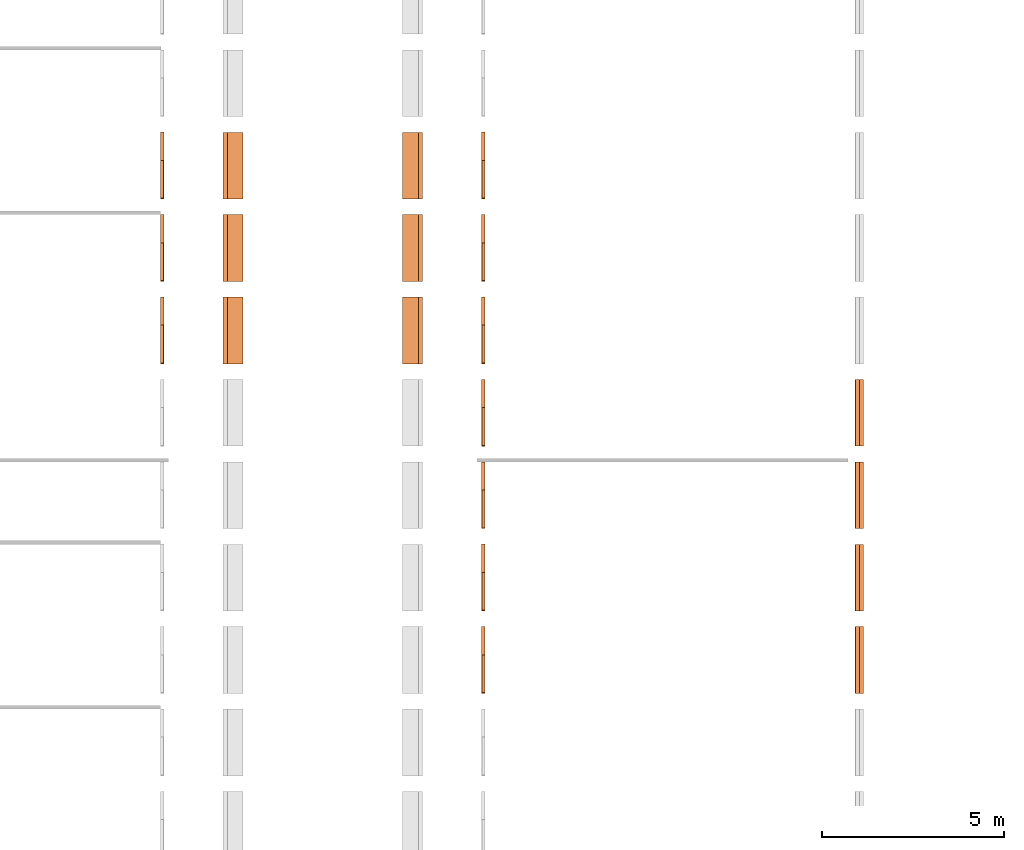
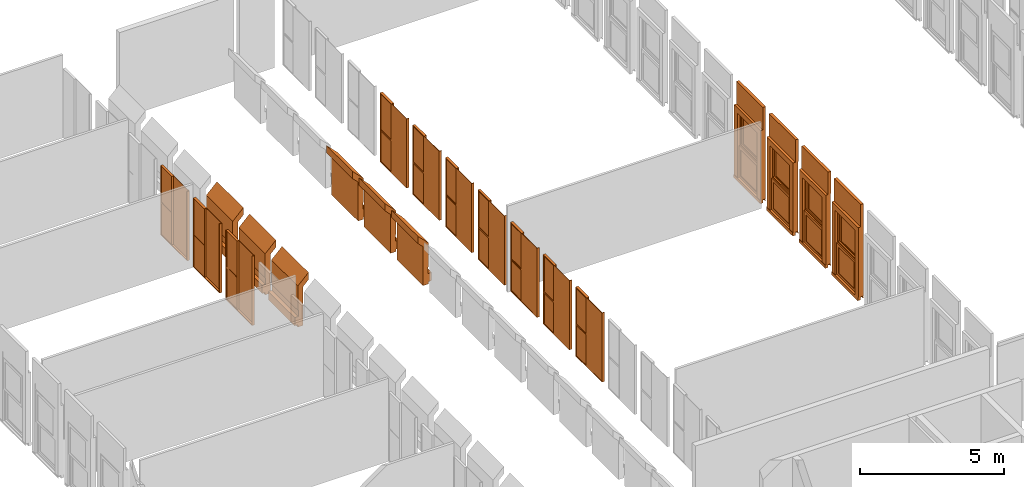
# One storey, part 10 of 13: 20 proxies.
"""IFC2X3 building model written with IfcOpenShell, lengths in millimetres."""

from ifc_helpers import new_model, entity, si_unit, converted_unit, derived_unit, direction, frame, frame_2d, origin, origin_2d_with_axis, place, context, subcontext, project, spatial, polyline, rectangle, outline, extrude, source, transform, mapped, material, material_list, type_object, type_shapes, element, save


model = new_model("IFC2X3")

# Units and contexts
model_context = context("Model", 3, precision=0.01, world=origin(), true_north=direction((6.12303176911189e-17, 1.0)))
body_context = subcontext(model_context, "Body", "Model", "MODEL_VIEW")
ifc_project = project(units=[si_unit("LENGTHUNIT", "METRE", prefix="MILLI"), si_unit("AREAUNIT", "SQUARE_METRE"), si_unit("VOLUMEUNIT", "CUBIC_METRE"), converted_unit("PLANEANGLEUNIT", "DEGREE", entity("IfcRatioMeasure", 0.0174532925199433), si_unit("PLANEANGLEUNIT", "RADIAN"), dimensions=[0, 0, 0, 0, 0, 0, 0]), si_unit("MASSUNIT", "GRAM", prefix="KILO"), derived_unit("MASSDENSITYUNIT", [(si_unit("MASSUNIT", "GRAM", prefix="KILO"), 1), (si_unit("LENGTHUNIT", "METRE"), -3)]), derived_unit("MOMENTOFINERTIAUNIT", [(si_unit("LENGTHUNIT", "METRE"), 4)]), si_unit("TIMEUNIT", "SECOND"), si_unit("FREQUENCYUNIT", "HERTZ"), si_unit("THERMODYNAMICTEMPERATUREUNIT", "DEGREE_CELSIUS"), derived_unit("THERMALTRANSMITTANCEUNIT", [(si_unit("MASSUNIT", "GRAM", prefix="KILO"), 1), (si_unit("THERMODYNAMICTEMPERATUREUNIT", "KELVIN"), -1), (si_unit("TIMEUNIT", "SECOND"), -3)]), derived_unit("VOLUMETRICFLOWRATEUNIT", [(si_unit("LENGTHUNIT", "METRE"), 3), (si_unit("TIMEUNIT", "SECOND"), -1)]), si_unit("ELECTRICCURRENTUNIT", "AMPERE"), si_unit("ELECTRICVOLTAGEUNIT", "VOLT"), si_unit("POWERUNIT", "WATT"), si_unit("FORCEUNIT", "NEWTON", prefix="KILO"), si_unit("ILLUMINANCEUNIT", "LUX"), si_unit("LUMINOUSFLUXUNIT", "LUMEN"), si_unit("LUMINOUSINTENSITYUNIT", "CANDELA"), derived_unit("USERDEFINED", [(si_unit("MASSUNIT", "GRAM", prefix="KILO"), -1), (si_unit("LENGTHUNIT", "METRE"), -2), (si_unit("TIMEUNIT", "SECOND"), 3), (si_unit("LUMINOUSFLUXUNIT", "LUMEN"), 1)]), derived_unit("LINEARVELOCITYUNIT", [(si_unit("LENGTHUNIT", "METRE"), 1), (si_unit("TIMEUNIT", "SECOND"), -1)]), si_unit("PRESSUREUNIT", "PASCAL"), derived_unit("USERDEFINED", [(si_unit("LENGTHUNIT", "METRE"), -2), (si_unit("MASSUNIT", "GRAM", prefix="KILO"), 1), (si_unit("TIMEUNIT", "SECOND"), -2)]), derived_unit("LINEARFORCEUNIT", [(si_unit("MASSUNIT", "GRAM", prefix="KILO"), 1), (si_unit("LENGTHUNIT", "METRE"), 1), (si_unit("TIMEUNIT", "SECOND"), -2), (si_unit("LENGTHUNIT", "METRE"), -1)]), derived_unit("PLANARFORCEUNIT", [(si_unit("MASSUNIT", "GRAM", prefix="KILO"), 1), (si_unit("LENGTHUNIT", "METRE"), 1), (si_unit("TIMEUNIT", "SECOND"), -2), (si_unit("LENGTHUNIT", "METRE"), -2)])], contexts=[model_context])

# Site, building, storey
site_placement = place(None, frame((10627.5135316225, 21939.0796949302, 0.0)))
site = spatial("IfcSite", under=ifc_project, at=site_placement, Name="Default", CompositionType="ELEMENT")
building_placement = place(site_placement, origin())
building = spatial("IfcBuilding", under=site, at=building_placement, CompositionType="ELEMENT")
storey_placement = place(building_placement, frame((0.0, 0.0, 7320.0)))
storey = spatial("IfcBuildingStorey", under=building, at=storey_placement, Name="R+2", CompositionType="ELEMENT", Elevation=7320.0)

# Proxies
ifc_material_1 = material(Name="PVC, Flexible")
ifc_material_2 = material(Name="Glass")
ifc_material_list_1 = material_list([ifc_material_1, ifc_material_2])
building_element_proxy_type_1 = type_object("IfcBuildingElementProxyType", Name="FENETRE.dwg:Fenetre ext 296+95", PredefinedType="NOTDEFINED", material=ifc_material_1)
shared_shape_1 = source(origin(), body_context, "Body", "SweptSolid", [
    extrude(rectangle(XDim=112.500043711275, YDim=1829.99999999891, at=origin_2d_with_axis()), frame((-10.4189092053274, -56.2500218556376, 2960.0), z_axis=(0.0, 0.0, 1.0), x_axis=(0.0, 1.0, 0.0)), (0.0, 0.0, 1.0), 949.999999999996),
    extrude(outline(polyline([(27.5499763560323, -64.4170494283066), (47.5499763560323, -64.4170494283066), (47.5499763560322, -59.4170494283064), (28.7622905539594, -59.4170494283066), (7.54997635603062, 46.6946996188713), (-42.4500236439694, 46.6946996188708), (-42.4500236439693, 32.9446996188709), (-39.9500236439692, 32.9446996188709), (-39.9500236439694, 44.1946996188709), (5.83789859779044, 44.1946996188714), (27.5499763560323, -64.4170494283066)])), frame((-925.418909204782, -66.917049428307, -47.5499763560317), z_axis=(1.0, 0.0, 0.0), x_axis=(0.0, 0.0, 1.0)), (0.0, 0.0, 1.0), 1829.99999999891),
    extrude(outline(polyline([(-54.506636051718, -66.1431859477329), (58.0333803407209, -66.1431859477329), (54.4666704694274, 67.6422744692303), (-57.9934147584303, 64.6440974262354), (-54.506636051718, -66.1431859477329)])), frame((-925.418909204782, 56.2500218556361, -63.833312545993), z_axis=(1.0, 0.0, 0.0), x_axis=(0.0, -0.999644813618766, 0.0266504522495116)), (0.0, 0.0, 1.0), 1829.99999999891),
    extrude(outline(polyline([(-97.0007159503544, -55.5555555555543), (5.85738417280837, -55.5555555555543), (95.357341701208, -55.5555555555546), (95.357341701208, -45.5555555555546), (105.357341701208, -45.5555555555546), (105.357341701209, 174.444444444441), (-106.642659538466, 174.444444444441), (-106.642659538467, -45.5555555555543), (-97.0007159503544, -45.5555555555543), (-97.0007159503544, -55.5555555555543)])), frame((849.025535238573, -5.85738417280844, 0.0), z_axis=(0.0, 0.0, 1.0), x_axis=(0.0, 1.0, 0.0)), (0.0, 0.0, 1.0), 2960.0),
    extrude(rectangle(XDim=1369.99999999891, YDim=199.499957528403, at=origin_2d_with_axis()), frame((-10.4189092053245, -0.250021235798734, 2730.0), z_axis=(0.0, 0.0, 1.0), x_axis=(-1.0, 0.0, 0.0)), (0.0, 0.0, 1.0), 230.000000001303),
    extrude(outline(polyline([(-55.5555555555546, 97.0007159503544), (-55.5555555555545, -5.85738417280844), (-55.5555555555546, -95.357341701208), (-45.5555555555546, -95.3573417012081), (-45.5555555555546, -105.357341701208), (174.444444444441, -105.357341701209), (174.444444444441, 106.642659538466), (-45.5555555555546, 106.642659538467), (-45.5555555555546, 97.0007159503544), (-55.5555555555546, 97.0007159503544)])), frame((-869.863353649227, -5.85738417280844, 0.0), z_axis=(0.0, 0.0, -1.0), x_axis=(1.0, 0.0, 0.0)), (0.0, 0.0, -1.0), 2960.0),
    extrude(rectangle(XDim=1079.99999999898, YDim=1.0, at=origin_2d_with_axis()), frame((-10.4189092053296, 19.5, 130.0), z_axis=(0.0, 0.0, 1.0), x_axis=(-1.0, 0.0, 0.0)), (0.0, 0.0, 1.0), 1120.00000000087),
    extrude(rectangle(XDim=1079.99999999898, YDim=1.0, at=origin_2d_with_axis()), frame((-10.4189092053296, 30.5, 130.0), z_axis=(0.0, 0.0, 1.0), x_axis=(-1.0, 0.0, 0.0)), (0.0, 0.0, 1.0), 1120.00000000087),
    extrude(rectangle(XDim=1079.99999999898, YDim=1.0, at=frame_2d((0.0, 4.21884749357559e-15), x_axis=(1.0, 0.0))), frame((-10.4189092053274, -69.5, 1465.0), z_axis=(0.0, 0.0, 1.0), x_axis=(-1.0, 0.0, 0.0)), (0.0, 0.0, 1.0), 1120.0),
    extrude(rectangle(XDim=1079.99999999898, YDim=0.999999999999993, at=frame_2d((0.0, -8.46545056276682e-15), x_axis=(1.0, 0.0))), frame((-10.4189092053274, -80.5, 1465.0), z_axis=(0.0, 0.0, 1.0), x_axis=(-1.0, 0.0, 0.0)), (0.0, 0.0, 1.0), 1120.00000000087),
    extrude(outline(polyline([(-685.0, -1365.0), (0.0, -1365.0), (685.0, -1365.0), (685.0, 1365.0), (0.0, 1365.0), (-685.0, 1365.0), (-685.0, -1365.0)]), holes=[polyline([(-640.0, -1320.0), (-640.0, -45.0), (0.0, -45.0), (640.0, -45.0), (640.0, -1320.0), (0.0, -1320.0), (-640.0, -1320.0)]), polyline([(-640.0, 40.0), (-640.0, 1315.0), (0.0, 1315.0), (640.0, 1315.0), (640.0, 40.0), (0.0, 40.0), (-640.0, 40.0)])]), frame((-10.4189092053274, -50.0, 1365.0), z_axis=(0.0, 1.0, 0.0), x_axis=(1.0, 0.0, 0.0)), (0.0, 0.0, 1.0), 50.0),
    extrude(outline(polyline([(-655.0, -667.500000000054), (655.0, -667.500000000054), (655.0, 667.500000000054), (-655.0, 667.500000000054), (-655.0, -667.500000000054)]), holes=[polyline([(-540.0, 552.500000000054), (540.0, 552.500000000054), (540.0, -567.500000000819), (-540.0, -567.500000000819), (-540.0, 552.500000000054)])]), frame((-10.4189092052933, 0.0, 697.500000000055), z_axis=(0.0, 1.0, 0.0), x_axis=(-1.0, 0.0, 0.0)), (0.0, 0.0, 1.0), 50.0),
    extrude(outline(polyline([(-655.0, -667.500000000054), (655.0, -667.500000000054), (655.0, 667.500000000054), (-655.0, 667.500000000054), (-655.0, -667.500000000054)]), holes=[polyline([(-540.0, 552.500000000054), (540.0, 552.500000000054), (540.0, -567.500000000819), (-540.0, -567.500000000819), (-540.0, 552.500000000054)])]), frame((-10.4189092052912, -100.0, 2032.50000000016), z_axis=(0.0, 1.0, 0.0), x_axis=(-1.0, 0.0, 0.0)), (0.0, 0.0, 1.0), 50.0),
])
type_shapes(building_element_proxy_type_1, [shared_shape_1])
proxy_1_placement = place(storey_placement, frame((41291.8747193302, 1801.33921427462, 0.0), z_axis=(0.0, 0.0, 1.0), x_axis=(0.0, 1.0, 0.0)))
element("IfcBuildingElementProxy", 1, at=proxy_1_placement, inside=storey, type_object=building_element_proxy_type_1, material=ifc_material_list_1, Name="FENETRE.dwg:Fenetre ext 296+95", ObjectType="FENETRE.dwg:Fenetre ext 296+95", context=body_context, shape_type="MappedRepresentation", body=[
    mapped(shared_shape_1, transform((0.0, 0.0, 0.0), scale=1.0)),
])
ifc_material_list_2 = material_list([ifc_material_1, ifc_material_2])
proxy_2_placement = place(storey_placement, frame((41291.8747193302, -458.660785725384, 0.0), z_axis=(0.0, 0.0, 1.0), x_axis=(0.0, 1.0, 0.0)))
element("IfcBuildingElementProxy", 2, at=proxy_2_placement, inside=storey, type_object=building_element_proxy_type_1, material=ifc_material_list_2, Name="FENETRE.dwg:Fenetre ext 296+95", ObjectType="FENETRE.dwg:Fenetre ext 296+95", context=body_context, shape_type="MappedRepresentation", body=[
    mapped(shared_shape_1, transform((0.0, 0.0, 0.0), scale=1.0)),
])
ifc_material_list_3 = material_list([ifc_material_1, ifc_material_2])
proxy_3_placement = place(storey_placement, frame((41291.8747193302, -2718.66078572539, 0.0), z_axis=(0.0, 0.0, 1.0), x_axis=(0.0, 1.0, 0.0)))
element("IfcBuildingElementProxy", 3, at=proxy_3_placement, inside=storey, type_object=building_element_proxy_type_1, material=ifc_material_list_3, Name="FENETRE.dwg:Fenetre ext 296+95", ObjectType="FENETRE.dwg:Fenetre ext 296+95", context=body_context, shape_type="MappedRepresentation", body=[
    mapped(shared_shape_1, transform((0.0, 0.0, 0.0), scale=1.0)),
])
ifc_material_list_4 = material_list([ifc_material_1, ifc_material_2])
proxy_4_placement = place(storey_placement, frame((41291.8747193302, -4978.66078572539, 0.0), z_axis=(0.0, 0.0, 1.0), x_axis=(0.0, 1.0, 0.0)))
element("IfcBuildingElementProxy", 4, at=proxy_4_placement, inside=storey, type_object=building_element_proxy_type_1, material=ifc_material_list_4, Name="FENETRE.dwg:Fenetre ext 296+95", ObjectType="FENETRE.dwg:Fenetre ext 296+95", context=body_context, shape_type="MappedRepresentation", body=[
    mapped(shared_shape_1, transform((0.0, 0.0, 0.0), scale=1.0)),
])
ifc_material_3 = material(Name="Plywood, Sheathing")
ifc_material_list_5 = material_list([ifc_material_3, ifc_material_2])
building_element_proxy_type_2 = type_object("IfcBuildingElementProxyType", Name="Porte noire:Porte noire", PredefinedType="NOTDEFINED", material=ifc_material_3)
shared_shape_2 = source(origin(), body_context, "Body", "SweptSolid", [
    extrude(rectangle(XDim=100.0, YDim=23.0000000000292, at=origin_2d_with_axis()), frame((-950.918997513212, -50.0, 8.73189890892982), z_axis=(0.0, 0.0, 1.0), x_axis=(0.0, 1.0, 0.0)), (0.0, 0.0, 1.0), 2933.34951039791),
    extrude(rectangle(XDim=19.0, YDim=1038.0, at=frame_2d((7.99360577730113e-15, 0.0), x_axis=(1.0, 0.0))), frame((-420.418997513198, -87.5, 43.7318989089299), z_axis=(0.0, 0.0, 1.0), x_axis=(0.0, 1.0, 0.0)), (0.0, 0.0, 1.0), 2898.5),
    extrude(rectangle(XDim=100.0, YDim=1775.0, at=origin_2d_with_axis()), frame((-51.9189975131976, -50.0, 8.73189890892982), z_axis=(0.0, 0.0, 1.0), x_axis=(0.0, 1.0, 0.0)), (0.0, 0.0, 1.0), 35.0000000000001),
    extrude(rectangle(XDim=100.0, YDim=35.0000000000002, at=origin_2d_with_axis()), frame((853.081002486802, -50.0, 8.73189890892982), z_axis=(0.0, 0.0, 1.0), x_axis=(0.0, 1.0, 0.0)), (0.0, 0.0, 1.0), 2898.5),
    extrude(rectangle(XDim=100.0, YDim=740.0, at=origin_2d_with_axis()), frame((500.581002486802, -50.0, 2907.23189890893), z_axis=(0.0, 0.0, 1.0), x_axis=(0.0, 1.0, 0.0)), (0.0, 0.0, 1.0), 35.0000000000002),
    extrude(rectangle(XDim=100.0, YDim=31.9999999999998, at=origin_2d_with_axis()), frame((114.581002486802, -50.0, 43.7318989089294), z_axis=(0.0, 0.0, 1.0), x_axis=(0.0, 1.0, 0.0)), (0.0, 0.0, 1.0), 2898.5),
    extrude(rectangle(XDim=100.0, YDim=705.0, at=origin_2d_with_axis()), frame((483.081002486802, -50.0, 1343.73189890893), z_axis=(0.0, 0.0, 1.0), x_axis=(0.0, 1.0, 0.0)), (0.0, 0.0, 1.0), 55.0),
    extrude(outline(polyline([(-352.5, -650.0), (352.5, -650.0), (352.5, 650.0), (-352.5, 650.0), (-352.5, -650.0)]), holes=[polyline([(342.5, 640.0), (342.5, -640.0), (-342.5, -640.0), (-342.5, 640.0), (342.5, 640.0)])]), frame((483.081002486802, -80.0, 693.73189890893), z_axis=(0.0, 1.0, 0.0), x_axis=(1.0, 0.0, 0.0)), (0.0, 0.0, 1.0), 70.0),
    extrude(outline(polyline([(-754.25, -352.5), (754.25, -352.5), (754.25, 352.5), (-754.25, 352.5), (-754.25, -352.5)]), holes=[polyline([(744.25, 342.5), (744.25, -342.5), (-744.25, -342.5), (-744.25, 342.5), (744.25, 342.5)])]), frame((483.081002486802, -80.0, 2152.98189890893), z_axis=(0.0, 1.0, 0.0), x_axis=(0.0, 0.0, 1.0)), (0.0, 0.0, 1.0), 70.0),
    extrude(outline(polyline([(-640.0, -342.5), (640.0, -342.5), (640.0, 342.5), (-640.0, 342.5), (-640.0, -342.5)]), holes=[polyline([(630.0, 332.5), (630.0, -332.5), (-630.0, -332.5), (-630.0, 332.5), (630.0, 332.5)])]), frame((483.081002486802, -81.0, 693.731898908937), z_axis=(0.0, 1.0, 0.0), x_axis=(0.0, 0.0, 1.0)), (0.0, 0.0, 1.0), 3.99999999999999),
    extrude(outline(polyline([(-744.25, -342.5), (744.25, -342.5), (744.25, 342.5), (-744.25, 342.5), (-744.25, -342.5)]), holes=[polyline([(734.25, 332.5), (734.25, -332.5), (-734.25, -332.5), (-734.25, 332.5), (734.25, 332.5)])]), frame((483.081002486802, -81.0, 2152.98189890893), z_axis=(0.0, 1.0, 0.0), x_axis=(0.0, 0.0, 1.0)), (0.0, 0.0, 1.0), 3.99999999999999),
    extrude(outline(polyline([(-640.0, -342.5), (640.0, -342.5), (640.0, 342.5), (-640.0, 342.5), (-640.0, -342.5)]), holes=[polyline([(630.0, 332.5), (630.0, -332.5), (-630.0, -332.5), (-630.0, 332.5), (630.0, 332.5)])]), frame((483.081002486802, -15.0, 693.782575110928), z_axis=(0.0, 1.0, 0.0), x_axis=(0.0, 0.0, 1.0)), (0.0, 0.0, 1.0), 5.0),
    extrude(outline(polyline([(-744.25, -342.5), (744.25, -342.5), (744.25, 342.5), (-744.25, 342.5), (-744.25, -342.5)]), holes=[polyline([(734.25, 332.5), (734.25, -332.5), (-734.25, -332.5), (-734.25, 332.5), (734.25, 332.5)])]), frame((483.081002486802, -15.0, 2153.03257511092), z_axis=(0.0, 1.0, 0.0), x_axis=(0.0, 0.0, 1.0)), (0.0, 0.0, 1.0), 5.0),
    extrude(rectangle(XDim=2.0, YDim=665.0, at=frame_2d((8.43769498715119e-15, 0.0), x_axis=(1.0, 0.0))), frame((483.081002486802, -79.0, 1418.73189890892), z_axis=(0.0, 0.0, 1.0), x_axis=(0.0, 1.0, 0.0)), (0.0, 0.0, 1.0), 1468.50000000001),
    extrude(rectangle(XDim=2.0, YDim=665.0, at=frame_2d((8.43769498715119e-15, 0.0), x_axis=(1.0, 0.0))), frame((483.081002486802, -79.0, 63.7318989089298), z_axis=(0.0, 0.0, 1.0), x_axis=(0.0, 1.0, 0.0)), (0.0, 0.0, 1.0), 1260.0),
    extrude(rectangle(XDim=2.0, YDim=665.0, at=frame_2d((1.0547118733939e-15, 0.0), x_axis=(1.0, 0.0))), frame((483.081002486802, -13.0, 1418.78257511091), z_axis=(0.0, 0.0, 1.0), x_axis=(0.0, 1.0, 0.0)), (0.0, 0.0, 1.0), 1468.50000000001),
    extrude(rectangle(XDim=2.0, YDim=665.0, at=frame_2d((1.0547118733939e-15, 0.0), x_axis=(1.0, 0.0))), frame((483.081002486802, -13.0, 63.7825751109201), z_axis=(0.0, 0.0, 1.0), x_axis=(0.0, 1.0, 0.0)), (0.0, 0.0, 1.0), 1260.0),
])
type_shapes(building_element_proxy_type_2, [shared_shape_2])
proxy_5_placement = place(storey_placement, frame((22127.8464640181, 4097.33930258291, 0.0), z_axis=(0.0, 0.0, 1.0), x_axis=(0.0, 1.0, 0.0)))
element("IfcBuildingElementProxy", 5, at=proxy_5_placement, inside=storey, type_object=building_element_proxy_type_2, material=ifc_material_list_5, Name="Porte noire:Porte noire", ObjectType="Porte noire:Porte noire", context=body_context, shape_type="MappedRepresentation", body=[
    mapped(shared_shape_2, transform((0.0, 0.0, 0.0), scale=1.0)),
])
ifc_material_list_6 = material_list([ifc_material_3, ifc_material_2])
proxy_6_placement = place(storey_placement, frame((22127.8464640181, 6357.33930258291, 0.0), z_axis=(0.0, 0.0, 1.0), x_axis=(0.0, 1.0, 0.0)))
element("IfcBuildingElementProxy", 6, at=proxy_6_placement, inside=storey, type_object=building_element_proxy_type_2, material=ifc_material_list_6, Name="Porte noire:Porte noire", ObjectType="Porte noire:Porte noire", context=body_context, shape_type="MappedRepresentation", body=[
    mapped(shared_shape_2, transform((0.0, 0.0, 0.0), scale=1.0)),
])
ifc_material_list_7 = material_list([ifc_material_3, ifc_material_2])
proxy_7_placement = place(storey_placement, frame((22127.8464640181, 8617.33930258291, 0.0), z_axis=(0.0, 0.0, 1.0), x_axis=(0.0, 1.0, 0.0)))
element("IfcBuildingElementProxy", 7, at=proxy_7_placement, inside=storey, type_object=building_element_proxy_type_2, material=ifc_material_list_7, Name="Porte noire:Porte noire", ObjectType="Porte noire:Porte noire", context=body_context, shape_type="MappedRepresentation", body=[
    mapped(shared_shape_2, transform((0.0, 0.0, 0.0), scale=1.0)),
])
ifc_material_list_8 = material_list([ifc_material_3, ifc_material_2])
building_element_proxy_type_3 = type_object("IfcBuildingElementProxyType", Name="Porte noire:Porte noire", PredefinedType="NOTDEFINED", material=ifc_material_3)
shared_shape_3 = source(origin(), body_context, "Body", "SweptSolid", [
    extrude(rectangle(XDim=23.0000000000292, YDim=100.0, at=frame_2d((-1.35891298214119e-13, 0.0), x_axis=(1.0, 0.0))), frame((-950.918997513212, 50.0, 8.73189890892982), z_axis=(0.0, 0.0, 1.0), x_axis=(-1.0, 0.0, 0.0)), (0.0, 0.0, 1.0), 2933.34951039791),
    extrude(rectangle(XDim=1038.0, YDim=19.0, at=frame_2d((0.0, 7.99360577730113e-15), x_axis=(1.0, 0.0))), frame((-420.418997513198, 87.5, 43.7318989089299), z_axis=(0.0, 0.0, 1.0), x_axis=(-1.0, 0.0, 0.0)), (0.0, 0.0, 1.0), 2898.5),
    extrude(rectangle(XDim=1775.0, YDim=100.0, at=origin_2d_with_axis()), frame((-51.9189975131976, 50.0, 8.73189890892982), z_axis=(0.0, 0.0, 1.0), x_axis=(-1.0, 0.0, 0.0)), (0.0, 0.0, 1.0), 35.0000000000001),
    extrude(rectangle(XDim=35.0000000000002, YDim=100.0, at=origin_2d_with_axis()), frame((853.081002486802, 50.0, 8.73189890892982), z_axis=(0.0, 0.0, 1.0), x_axis=(-1.0, 0.0, 0.0)), (0.0, 0.0, 1.0), 2898.5),
    extrude(rectangle(XDim=740.0, YDim=100.0, at=origin_2d_with_axis()), frame((500.581002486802, 50.0, 2907.23189890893), z_axis=(0.0, 0.0, 1.0), x_axis=(-1.0, 0.0, 0.0)), (0.0, 0.0, 1.0), 35.0000000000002),
    extrude(rectangle(XDim=31.9999999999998, YDim=100.0, at=origin_2d_with_axis()), frame((114.581002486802, 50.0, 43.7318989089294), z_axis=(0.0, 0.0, 1.0), x_axis=(-1.0, 0.0, 0.0)), (0.0, 0.0, 1.0), 2898.5),
    extrude(rectangle(XDim=705.0, YDim=100.0, at=origin_2d_with_axis()), frame((483.081002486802, 50.0, 1343.73189890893), z_axis=(0.0, 0.0, 1.0), x_axis=(-1.0, 0.0, 0.0)), (0.0, 0.0, 1.0), 55.0),
    extrude(outline(polyline([(-352.5, -650.0), (352.5, -650.0), (352.5, 650.0), (-352.5, 650.0), (-352.5, -650.0)]), holes=[polyline([(342.5, 640.0), (342.5, -640.0), (-342.5, -640.0), (-342.5, 640.0), (342.5, 640.0)])]), frame((483.081002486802, 10.0, 693.73189890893), z_axis=(0.0, 1.0, 0.0), x_axis=(1.0, 0.0, 0.0)), (0.0, 0.0, 1.0), 70.0),
    extrude(outline(polyline([(-754.25, -352.5), (754.25, -352.5), (754.25, 352.5), (-754.25, 352.5), (-754.25, -352.5)]), holes=[polyline([(744.25, 342.5), (744.25, -342.5), (-744.25, -342.5), (-744.25, 342.5), (744.25, 342.5)])]), frame((483.081002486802, 10.0, 2152.98189890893), z_axis=(0.0, 1.0, 0.0), x_axis=(0.0, 0.0, 1.0)), (0.0, 0.0, 1.0), 70.0),
    extrude(outline(polyline([(-640.0, -342.5), (640.0, -342.5), (640.0, 342.5), (-640.0, 342.5), (-640.0, -342.5)]), holes=[polyline([(630.0, 332.5), (630.0, -332.5), (-630.0, -332.5), (-630.0, 332.5), (630.0, 332.5)])]), frame((483.081002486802, 77.0, 693.731898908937), z_axis=(0.0, 1.0, 0.0), x_axis=(0.0, 0.0, 1.0)), (0.0, 0.0, 1.0), 3.99999999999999),
    extrude(outline(polyline([(-744.25, -342.5), (744.25, -342.5), (744.25, 342.5), (-744.25, 342.5), (-744.25, -342.5)]), holes=[polyline([(734.25, 332.5), (734.25, -332.5), (-734.25, -332.5), (-734.25, 332.5), (734.25, 332.5)])]), frame((483.081002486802, 77.0, 2152.98189890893), z_axis=(0.0, 1.0, 0.0), x_axis=(0.0, 0.0, 1.0)), (0.0, 0.0, 1.0), 3.99999999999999),
    extrude(outline(polyline([(-640.0, -342.5), (640.0, -342.5), (640.0, 342.5), (-640.0, 342.5), (-640.0, -342.5)]), holes=[polyline([(630.0, 332.5), (630.0, -332.5), (-630.0, -332.5), (-630.0, 332.5), (630.0, 332.5)])]), frame((483.081002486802, 10.0, 693.782575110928), z_axis=(0.0, 1.0, 0.0), x_axis=(0.0, 0.0, 1.0)), (0.0, 0.0, 1.0), 5.0),
    extrude(outline(polyline([(-744.25, -342.5), (744.25, -342.5), (744.25, 342.5), (-744.25, 342.5), (-744.25, -342.5)]), holes=[polyline([(734.25, 332.5), (734.25, -332.5), (-734.25, -332.5), (-734.25, 332.5), (734.25, 332.5)])]), frame((483.081002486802, 10.0, 2153.03257511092), z_axis=(0.0, 1.0, 0.0), x_axis=(0.0, 0.0, 1.0)), (0.0, 0.0, 1.0), 5.0),
    extrude(rectangle(XDim=665.0, YDim=2.0, at=frame_2d((0.0, 8.43769498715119e-15), x_axis=(1.0, 0.0))), frame((483.081002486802, 79.0, 1418.73189890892), z_axis=(0.0, 0.0, 1.0), x_axis=(-1.0, 0.0, 0.0)), (0.0, 0.0, 1.0), 1468.50000000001),
    extrude(rectangle(XDim=665.0, YDim=2.0, at=frame_2d((0.0, 8.43769498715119e-15), x_axis=(1.0, 0.0))), frame((483.081002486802, 79.0, 63.7318989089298), z_axis=(0.0, 0.0, 1.0), x_axis=(-1.0, 0.0, 0.0)), (0.0, 0.0, 1.0), 1260.0),
    extrude(rectangle(XDim=665.0, YDim=2.0, at=frame_2d((0.0, 1.0547118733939e-15), x_axis=(1.0, 0.0))), frame((483.081002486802, 13.0, 1418.78257511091), z_axis=(0.0, 0.0, 1.0), x_axis=(-1.0, 0.0, 0.0)), (0.0, 0.0, 1.0), 1468.50000000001),
    extrude(rectangle(XDim=665.0, YDim=2.0, at=frame_2d((0.0, 1.0547118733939e-15), x_axis=(1.0, 0.0))), frame((483.081002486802, 13.0, 63.7825751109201), z_axis=(0.0, 0.0, 1.0), x_axis=(-1.0, 0.0, 0.0)), (0.0, 0.0, 1.0), 1260.0),
])
type_shapes(building_element_proxy_type_3, [shared_shape_3])
proxy_8_placement = place(storey_placement, frame((31027.1264727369, -4942.66069741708, 0.0), z_axis=(0.0, 0.0, 1.0), x_axis=(0.0, 1.0, 0.0)))
element("IfcBuildingElementProxy", 8, at=proxy_8_placement, inside=storey, type_object=building_element_proxy_type_3, material=ifc_material_list_8, Name="Porte noire:Porte noire", ObjectType="Porte noire:Porte noire", context=body_context, shape_type="MappedRepresentation", body=[
    mapped(shared_shape_3, transform((0.0, 0.0, 0.0), scale=1.0)),
])
ifc_material_list_9 = material_list([ifc_material_3, ifc_material_2])
proxy_9_placement = place(storey_placement, frame((31027.1264727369, -2682.66069741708, 0.0), z_axis=(0.0, 0.0, 1.0), x_axis=(0.0, 1.0, 0.0)))
element("IfcBuildingElementProxy", 9, at=proxy_9_placement, inside=storey, type_object=building_element_proxy_type_3, material=ifc_material_list_9, Name="Porte noire:Porte noire", ObjectType="Porte noire:Porte noire", context=body_context, shape_type="MappedRepresentation", body=[
    mapped(shared_shape_3, transform((0.0, 0.0, 0.0), scale=1.0)),
])
ifc_material_list_10 = material_list([ifc_material_3, ifc_material_2])
proxy_10_placement = place(storey_placement, frame((31027.1264727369, -422.660697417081, 0.0), z_axis=(0.0, 0.0, 1.0), x_axis=(0.0, 1.0, 0.0)))
element("IfcBuildingElementProxy", 10, at=proxy_10_placement, inside=storey, type_object=building_element_proxy_type_3, material=ifc_material_list_10, Name="Porte noire:Porte noire", ObjectType="Porte noire:Porte noire", context=body_context, shape_type="MappedRepresentation", body=[
    mapped(shared_shape_3, transform((0.0, 0.0, 0.0), scale=1.0)),
])
ifc_material_list_11 = material_list([ifc_material_3, ifc_material_2])
proxy_11_placement = place(storey_placement, frame((31027.1264727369, 1837.33930258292, 0.0), z_axis=(0.0, 0.0, 1.0), x_axis=(0.0, 1.0, 0.0)))
element("IfcBuildingElementProxy", 11, at=proxy_11_placement, inside=storey, type_object=building_element_proxy_type_3, material=ifc_material_list_11, Name="Porte noire:Porte noire", ObjectType="Porte noire:Porte noire", context=body_context, shape_type="MappedRepresentation", body=[
    mapped(shared_shape_3, transform((0.0, 0.0, 0.0), scale=1.0)),
])
ifc_material_list_12 = material_list([ifc_material_3, ifc_material_2])
proxy_12_placement = place(storey_placement, frame((31027.1264727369, 4097.33930258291, 0.0), z_axis=(0.0, 0.0, 1.0), x_axis=(0.0, 1.0, 0.0)))
element("IfcBuildingElementProxy", 12, at=proxy_12_placement, inside=storey, type_object=building_element_proxy_type_3, material=ifc_material_list_12, Name="Porte noire:Porte noire", ObjectType="Porte noire:Porte noire", context=body_context, shape_type="MappedRepresentation", body=[
    mapped(shared_shape_3, transform((0.0, 0.0, 0.0), scale=1.0)),
])
ifc_material_list_13 = material_list([ifc_material_3, ifc_material_2])
proxy_13_placement = place(storey_placement, frame((31027.1264727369, 6357.33930258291, 0.0), z_axis=(0.0, 0.0, 1.0), x_axis=(0.0, 1.0, 0.0)))
element("IfcBuildingElementProxy", 13, at=proxy_13_placement, inside=storey, type_object=building_element_proxy_type_3, material=ifc_material_list_13, Name="Porte noire:Porte noire", ObjectType="Porte noire:Porte noire", context=body_context, shape_type="MappedRepresentation", body=[
    mapped(shared_shape_3, transform((0.0, 0.0, 0.0), scale=1.0)),
])
ifc_material_list_14 = material_list([ifc_material_3, ifc_material_2])
proxy_14_placement = place(storey_placement, frame((31027.1264727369, 8617.33930258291, 0.0), z_axis=(0.0, 0.0, 1.0), x_axis=(0.0, 1.0, 0.0)))
element("IfcBuildingElementProxy", 14, at=proxy_14_placement, inside=storey, type_object=building_element_proxy_type_3, material=ifc_material_list_14, Name="Porte noire:Porte noire", ObjectType="Porte noire:Porte noire", context=body_context, shape_type="MappedRepresentation", body=[
    mapped(shared_shape_3, transform((0.0, 0.0, 0.0), scale=1.0)),
])
ifc_material_4 = material(Name="Concrete, Precast Smooth, Light Grey")
building_element_proxy_type_4 = type_object("IfcBuildingElementProxyType", Name="Panneaux mediateque:Panneaux mediateque", PredefinedType="NOTDEFINED", material=ifc_material_4)
shared_shape_4 = source(origin(), body_context, "Body", "SweptSolid", [
    extrude(outline(polyline([(-998.434688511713, -508.899393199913), (-1213.39514999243, -723.859854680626), (-605.283318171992, -723.859854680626), (115.965598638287, -2.61093787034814), (101.823463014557, 11.5311977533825), (296.277827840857, 205.985562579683), (310.419963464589, 191.843426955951), (395.272229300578, 106.991161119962), (639.224068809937, 350.943000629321), (554.371802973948, 435.79526646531), (625.082466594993, 506.505930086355), (473.054508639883, 658.533888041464), (-694.378772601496, -508.899393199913), (-998.434688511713, -508.899393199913)])), frame((0.0, -203.845498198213, 800.153828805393), z_axis=(-1.0, 0.0, 0.0), x_axis=(0.0, 0.707106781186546, -0.707106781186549)), (0.0, 0.0, -1.0), 1830.0),
])
type_shapes(building_element_proxy_type_4, [shared_shape_4])
for number, where, z_axis, x_axis, name in (
    (15, (23837.4872432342, 7655.92030506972, -700.0), (0.0, 0.0, 1.0), (0.0, 1.0, 0.0), "Panneaux mediateque:Panneaux mediateque"),
    (16, (23837.4872432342, 5395.92030506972, -700.0), (0.0, 0.0, 1.0), (0.0, 1.0, 0.0), "Panneaux mediateque:Panneaux mediateque"),
    (17, (23837.4872432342, 3135.92030506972, -700.0), (0.0, 0.0, 1.0), (0.0, 1.0, 0.0), "Panneaux mediateque:Panneaux mediateque"),
):
    element("IfcBuildingElementProxy", number, at=place(storey_placement, frame(where, z_axis=z_axis, x_axis=x_axis)), inside=storey, type_object=building_element_proxy_type_4, material=ifc_material_4, Name=name, ObjectType="Panneaux mediateque:Panneaux mediateque", context=body_context, shape_type="MappedRepresentation", body=[
        mapped(shared_shape_4, transform((0.0, 0.0, 0.0), scale=1.0)),
    ])
building_element_proxy_type_5 = type_object("IfcBuildingElementProxyType", Name="Panneaux mediateque:Panneaux mediateque", PredefinedType="NOTDEFINED", material=ifc_material_4)
shared_shape_5 = source(origin(), body_context, "Body", "SweptSolid", [
    extrude(outline(polyline([(1065.84615069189, -346.153726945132), (1369.84615069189, -346.153726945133), (939.84615069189, 83.8462730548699), (-80.1538493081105, 83.8462730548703), (-80.1538493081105, 63.8462730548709), (-355.15384930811, 63.8462730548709), (-355.15384930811, 83.8462730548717), (-355.15384930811, 203.845498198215), (-700.153849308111, 203.845498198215), (-700.153849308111, 83.8462730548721), (-800.153828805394, 83.8462730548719), (-800.153828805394, -131.153726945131), (850.846150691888, -131.153726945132), (1065.84615069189, -346.153726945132)])), frame((0.0, 203.845498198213, 800.153828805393), z_axis=(1.0, 0.0, 0.0), x_axis=(0.0, 0.0, 1.0)), (0.0, 0.0, 1.0), 1830.0),
])
type_shapes(building_element_proxy_type_5, [shared_shape_5])
for number, where, z_axis, x_axis, name in (
    (18, (29317.4856935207, 7655.92030506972, -700.0), (0.0, 0.0, 1.0), (0.0, 1.0, 0.0), "Panneaux mediateque:Panneaux mediateque"),
    (19, (29317.4856935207, 5395.92030506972, -700.0), (0.0, 0.0, 1.0), (0.0, 1.0, 0.0), "Panneaux mediateque:Panneaux mediateque"),
    (20, (29317.4856935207, 3135.92030506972, -700.0), (0.0, 0.0, 1.0), (0.0, 1.0, 0.0), "Panneaux mediateque:Panneaux mediateque"),
):
    element("IfcBuildingElementProxy", number, at=place(storey_placement, frame(where, z_axis=z_axis, x_axis=x_axis)), inside=storey, type_object=building_element_proxy_type_5, material=ifc_material_4, Name=name, ObjectType="Panneaux mediateque:Panneaux mediateque", context=body_context, shape_type="MappedRepresentation", body=[
        mapped(shared_shape_5, transform((0.0, 0.0, 0.0), scale=1.0)),
    ])

save(model, "model.ifc")
